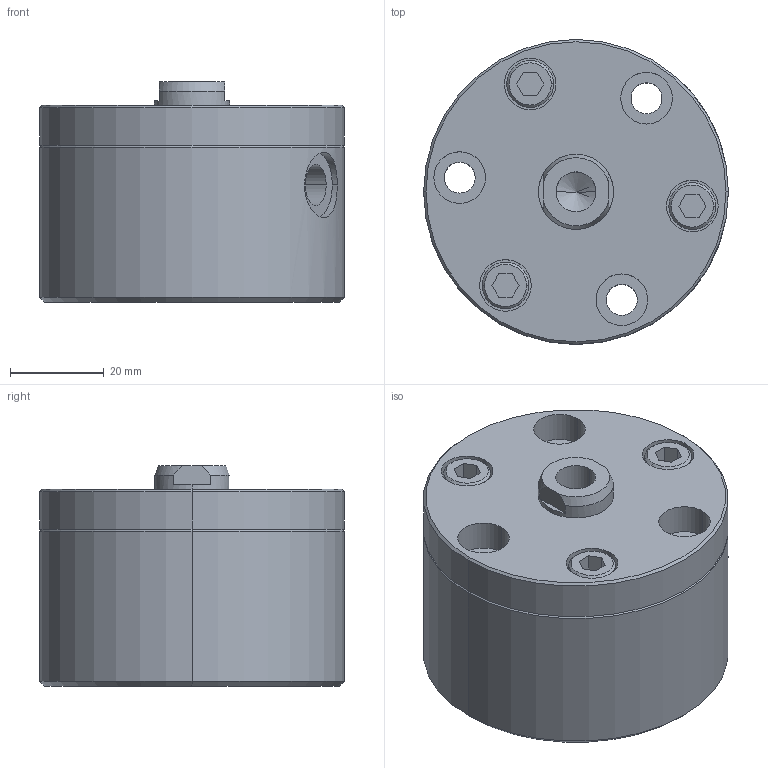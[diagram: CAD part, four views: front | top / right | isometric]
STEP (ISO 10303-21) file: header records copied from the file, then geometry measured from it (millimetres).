
FILE_DESCRIPTION (( 'STEP AP203' ), '1' );
FILE_NAME ('4360 321.STEP', '2016-01-28T12:20:37', ( '' ), ( '' ), 'SwSTEP 2.0', 'SolidWorks 2015', '' );
FILE_SCHEMA (( 'CONFIG_CONTROL_DESIGN' ));
Length unit declared in the file: millimetre
Products named in the file (1): 4360 321
Bounding box: 65 x 65 x 47 mm (x, y, z)
Volume: 127782 mm3; surface area: 22071 mm2
Topology: 1 solids, 1 shells, 109 faces, 246 edges, 155 vertices
Faces by surface type: cylinder 46, plane 43, cone 20
Entity records: 3295 total; most frequent: CARTESIAN_POINT 707, DIRECTION 558, ORIENTED_EDGE 480, EDGE_CURVE 240, AXIS2_PLACEMENT_3D 216, VERTEX_POINT 155, EDGE_LOOP 137, LINE 126
